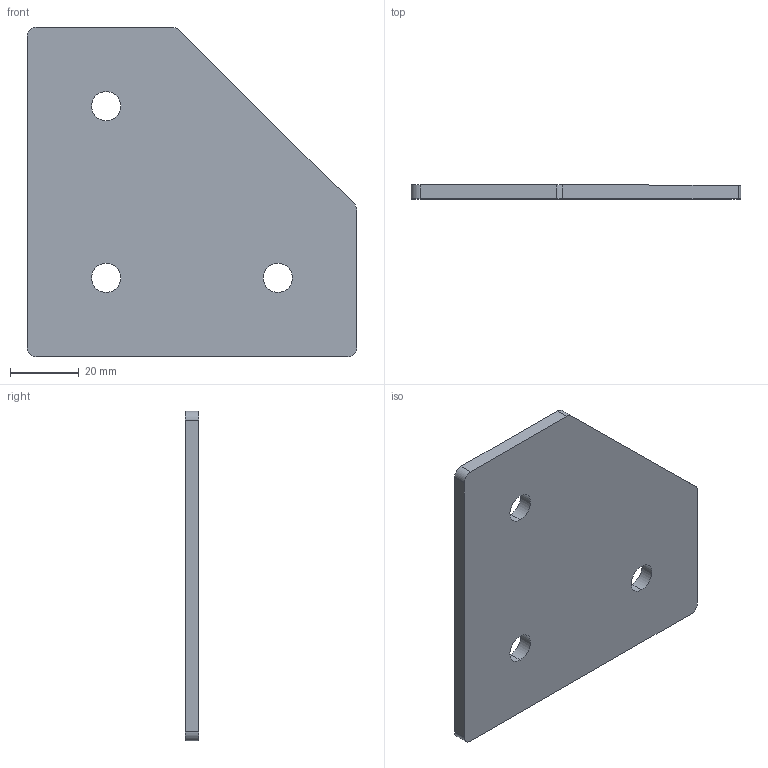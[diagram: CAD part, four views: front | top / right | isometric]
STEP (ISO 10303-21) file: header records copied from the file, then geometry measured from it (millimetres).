
FILE_DESCRIPTION (( 'STEP AP203' ), '1' );
FILE_NAME ('ﾃ-3-ﾓ-50.STEP', '2017-03-22T07:51:04', ( 'RosInstal-MKM' ), ( '' ), 'SwSTEP 2.0', 'SolidWorks 2014', '' );
FILE_SCHEMA (( 'CONFIG_CONTROL_DESIGN' ));
Length unit declared in the file: millimetre
Products named in the file (1): ﾃ-3-ﾓ-50
Bounding box: 96 x 4 x 96 mm (x, y, z)
Volume: 30662 mm3; surface area: 17050.3 mm2
Topology: 1 solids, 1 shells, 18 faces, 48 edges, 32 vertices
Faces by surface type: cylinder 11, plane 7
Entity records: 663 total; most frequent: DIRECTION 108, CARTESIAN_POINT 99, ORIENTED_EDGE 96, EDGE_CURVE 48, AXIS2_PLACEMENT_3D 41, VERTEX_POINT 32, VECTOR 26, LINE 26
